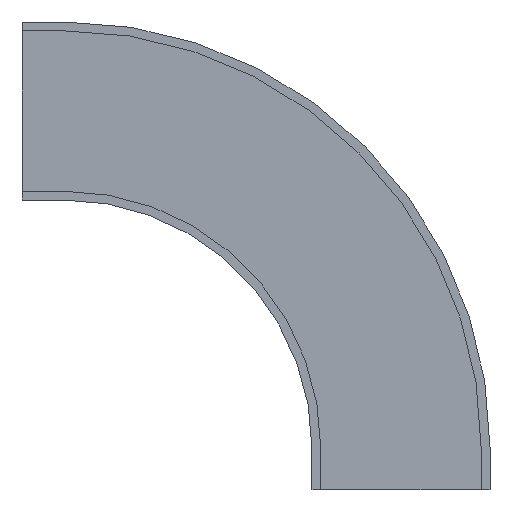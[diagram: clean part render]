
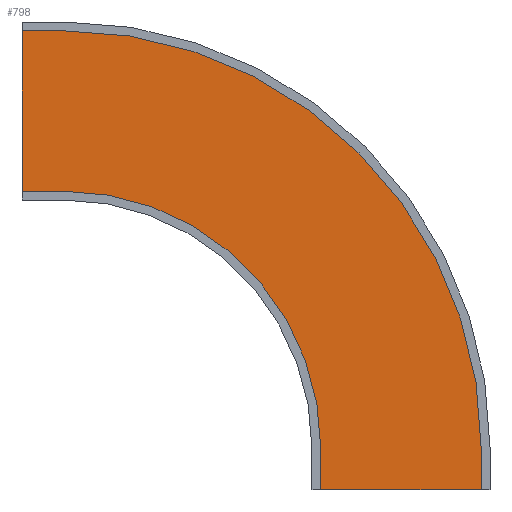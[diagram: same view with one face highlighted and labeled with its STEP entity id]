
A CAD part, front view. The second image highlights one B-rep face of the part: STEP entity #798.
In plain terms, the highlighted planar face has unit normal (0, -1, 0).
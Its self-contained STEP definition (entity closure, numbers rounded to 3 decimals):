
#252 = DIRECTION ( 'NONE',  ( -1., 0., 0. ) ) ;
#253 = DIRECTION ( 'NONE',  ( 0., 1., 0. ) ) ;
#255 = PLANE ( 'NONE',  #710 ) ;
#260 = CARTESIAN_POINT ( 'NONE',  ( 0., -68., 609.5 ) ) ;
#447 = CARTESIAN_POINT ( 'NONE',  ( 0., -68., 609.5 ) ) ;
#491 = ORIENTED_EDGE ( 'NONE', *, *, #900, .T. ) ;
#492 = ORIENTED_EDGE ( 'NONE', *, *, #899, .F. ) ;
#493 = ORIENTED_EDGE ( 'NONE', *, *, #898, .F. ) ;
#494 = ORIENTED_EDGE ( 'NONE', *, *, #891, .T. ) ;
#495 = ORIENTED_EDGE ( 'NONE', *, *, #897, .T. ) ;
#496 = ORIENTED_EDGE ( 'NONE', *, *, #896, .F. ) ;
#497 = ORIENTED_EDGE ( 'NONE', *, *, #895, .F. ) ;
#498 = ORIENTED_EDGE ( 'NONE', *, *, #894, .F. ) ;
#534 = EDGE_LOOP ( 'NONE', ( #498, #497, #496, #495, #494, #493, #492, #491 ) ) ;
#585 = VERTEX_POINT ( 'NONE', #447 ) ;
#710 = AXIS2_PLACEMENT_3D ( 'NONE', #260, #253, #252 ) ;
#761 = AXIS2_PLACEMENT_3D ( 'NONE', #1613, #1614, #1615 ) ;
#762 = AXIS2_PLACEMENT_3D ( 'NONE', #1621, #1622, #1623 ) ;
#798 = ADVANCED_FACE ( 'NONE', ( #1439 ), #255, .F. ) ;
#891 = EDGE_CURVE ( 'NONE', #585, #1128, #1878, .T. ) ;
#894 = EDGE_CURVE ( 'NONE', #1130, #1132, #1883, .T. ) ;
#895 = EDGE_CURVE ( 'NONE', #1129, #1130, #1880, .T. ) ;
#896 = EDGE_CURVE ( 'NONE', #1133, #1129, #1885, .T. ) ;
#897 = EDGE_CURVE ( 'NONE', #1133, #585, #1888, .T. ) ;
#898 = EDGE_CURVE ( 'NONE', #1238, #1128, #1890, .T. ) ;
#899 = EDGE_CURVE ( 'NONE', #1136, #1238, #1886, .T. ) ;
#900 = EDGE_CURVE ( 'NONE', #1136, #1132, #1894, .T. ) ;
#1128 = VERTEX_POINT ( 'NONE', #1669 ) ;
#1129 = VERTEX_POINT ( 'NONE', #1672 ) ;
#1130 = VERTEX_POINT ( 'NONE', #1673 ) ;
#1132 = VERTEX_POINT ( 'NONE', #1674 ) ;
#1133 = VERTEX_POINT ( 'NONE', #1664 ) ;
#1136 = VERTEX_POINT ( 'NONE', #1676 ) ;
#1238 = VERTEX_POINT ( 'NONE', #1778 ) ;
#1439 = FACE_OUTER_BOUND ( 'NONE', #534, .T. ) ;
#1611 = DIRECTION ( 'NONE',  ( 1., 0., 0. ) ) ;
#1613 = CARTESIAN_POINT ( 'NONE',  ( 0., -68., 0. ) ) ;
#1614 = DIRECTION ( 'NONE',  ( 0., 1., 0. ) ) ;
#1615 = DIRECTION ( 'NONE',  ( -1., 0., 0. ) ) ;
#1618 = CARTESIAN_POINT ( 'NONE',  ( -100., -68., 0. ) ) ;
#1619 = CARTESIAN_POINT ( 'NONE',  ( 0., -68., -100. ) ) ;
#1620 = CARTESIAN_POINT ( 'NONE',  ( -100., -68., 990.5 ) ) ;
#1621 = CARTESIAN_POINT ( 'NONE',  ( 0., -68., 0. ) ) ;
#1622 = DIRECTION ( 'NONE',  ( 0., 1., 0. ) ) ;
#1623 = DIRECTION ( 'NONE',  ( -1., 0., 0. ) ) ;
#1624 = DIRECTION ( 'NONE',  ( 0., 0., 1. ) ) ;
#1625 = CARTESIAN_POINT ( 'NONE',  ( -100., -68., 609.5 ) ) ;
#1626 = DIRECTION ( 'NONE',  ( 1., 0., 0. ) ) ;
#1627 = CARTESIAN_POINT ( 'NONE',  ( 609.5, -68., -100. ) ) ;
#1629 = DIRECTION ( 'NONE',  ( 0., 0., 1. ) ) ;
#1630 = DIRECTION ( 'NONE',  ( -1., 0., 0. ) ) ;
#1631 = CARTESIAN_POINT ( 'NONE',  ( 990.5, -68., -100. ) ) ;
#1632 = DIRECTION ( 'NONE',  ( 0., 0., 1. ) ) ;
#1664 = CARTESIAN_POINT ( 'NONE',  ( -100., -68., 609.5 ) ) ;
#1669 = CARTESIAN_POINT ( 'NONE',  ( 609.5, -68., 0. ) ) ;
#1672 = CARTESIAN_POINT ( 'NONE',  ( -100., -68., 990.5 ) ) ;
#1673 = CARTESIAN_POINT ( 'NONE',  ( 0., -68., 990.5 ) ) ;
#1674 = CARTESIAN_POINT ( 'NONE',  ( 990.5, -68., 0. ) ) ;
#1676 = CARTESIAN_POINT ( 'NONE',  ( 990.5, -68., -100. ) ) ;
#1778 = CARTESIAN_POINT ( 'NONE',  ( 609.5, -68., -100. ) ) ;
#1878 = CIRCLE ( 'NONE', #761, 609.5 ) ;
#1880 = LINE ( 'NONE', #1620, #1887 ) ;
#1883 = CIRCLE ( 'NONE', #762, 990.5 ) ;
#1885 = LINE ( 'NONE', #1618, #1889 ) ;
#1886 = LINE ( 'NONE', #1619, #1895 ) ;
#1887 = VECTOR ( 'NONE', #1611, 1000. ) ;
#1888 = LINE ( 'NONE', #1625, #1891 ) ;
#1889 = VECTOR ( 'NONE', #1624, 1000. ) ;
#1890 = LINE ( 'NONE', #1627, #1893 ) ;
#1891 = VECTOR ( 'NONE', #1626, 1000. ) ;
#1893 = VECTOR ( 'NONE', #1629, 1000. ) ;
#1894 = LINE ( 'NONE', #1631, #1897 ) ;
#1895 = VECTOR ( 'NONE', #1630, 1000. ) ;
#1897 = VECTOR ( 'NONE', #1632, 1000. ) ;
